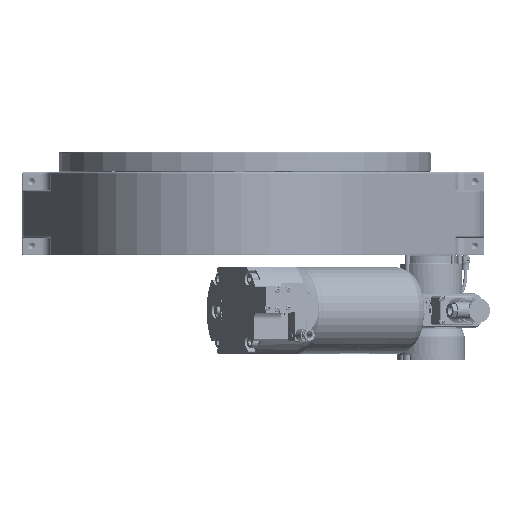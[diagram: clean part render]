
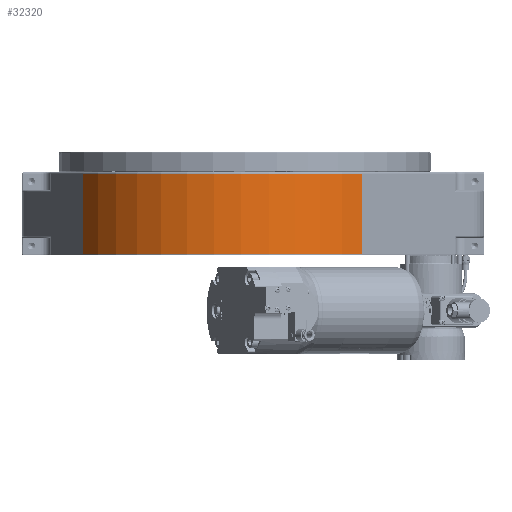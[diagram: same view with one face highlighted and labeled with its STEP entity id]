
A CAD part, front view. The second image highlights one B-rep face of the part: STEP entity #32320.
In plain terms, the highlighted cylindrical face has radius 195 mm (diameter 390 mm), a partial arc.
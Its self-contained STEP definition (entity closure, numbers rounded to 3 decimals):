
#16893=LINE('',#138966,#21298);
#16907=LINE('',#138999,#21312);
#21298=VECTOR('',#105715,1.);
#21312=VECTOR('',#105739,1.);
#26374=CYLINDRICAL_SURFACE('',#90681,195.);
#32320=ADVANCED_FACE('',(#38131),#26374,.T.);
#38131=FACE_OUTER_BOUND('',#43101,.T.);
#43101=EDGE_LOOP('',(#58123,#58124,#58125,#58126));
#58123=ORIENTED_EDGE('',*,*,#79418,.F.);
#58124=ORIENTED_EDGE('',*,*,#79422,.T.);
#58125=ORIENTED_EDGE('',*,*,#79402,.T.);
#58126=ORIENTED_EDGE('',*,*,#79423,.T.);
#70389=VERTEX_POINT('',#138965);
#70390=VERTEX_POINT('',#138967);
#70403=VERTEX_POINT('',#138998);
#70404=VERTEX_POINT('',#139000);
#79402=EDGE_CURVE('',#70390,#70389,#16893,.T.);
#79418=EDGE_CURVE('',#70403,#70404,#16907,.T.);
#79422=EDGE_CURVE('',#70403,#70390,#84880,.T.);
#79423=EDGE_CURVE('',#70389,#70404,#84881,.T.);
#84880=CIRCLE('',#90679,195.);
#84881=CIRCLE('',#90680,195.);
#90679=AXIS2_PLACEMENT_3D('',#139007,#105745,#105746);
#90680=AXIS2_PLACEMENT_3D('',#139008,#105747,#105748);
#90681=AXIS2_PLACEMENT_3D('',#139009,#105749,#105750);
#105715=DIRECTION('',(0.,0.,-1.));
#105739=DIRECTION('',(0.,0.,-1.));
#105745=DIRECTION('',(0.,0.,-1.));
#105746=DIRECTION('',(-1.,0.,0.));
#105747=DIRECTION('',(0.,0.,1.));
#105748=DIRECTION('',(1.,0.,0.));
#105749=DIRECTION('',(0.,0.,-1.));
#105750=DIRECTION('',(-1.,0.,0.));
#138965=CARTESIAN_POINT('',(173.29,192.417,-46.5));
#138966=CARTESIAN_POINT('',(173.29,192.417,48.));
#138967=CARTESIAN_POINT('',(173.29,192.417,46.5));
#138998=CARTESIAN_POINT('',(-147.889,230.098,46.5));
#138999=CARTESIAN_POINT('',(-147.889,230.098,48.));
#139000=CARTESIAN_POINT('',(-147.889,230.098,-46.5));
#139007=CARTESIAN_POINT('',(0.,103.,46.5));
#139008=CARTESIAN_POINT('',(0.,103.,-46.5));
#139009=CARTESIAN_POINT('',(0.,103.,48.));
